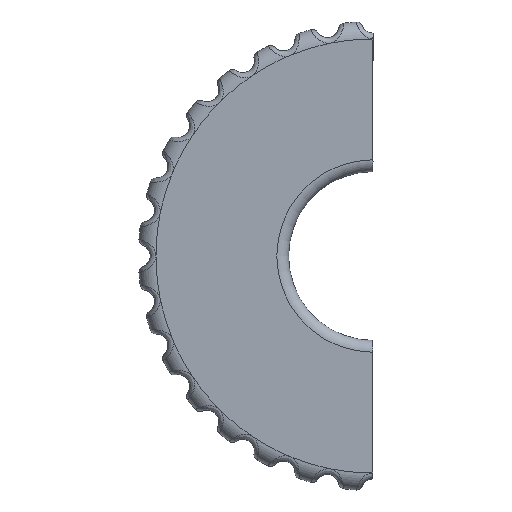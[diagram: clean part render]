
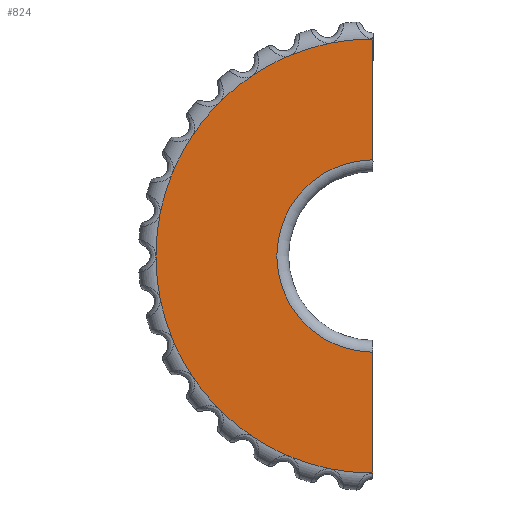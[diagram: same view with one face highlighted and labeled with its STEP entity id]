
A CAD part, front view. The second image highlights one B-rep face of the part: STEP entity #824.
In plain terms, the highlighted planar face has unit normal (0, -1, 0).
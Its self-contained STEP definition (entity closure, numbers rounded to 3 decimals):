
#259=PLANE('',#4385);
#430=LINE('',#5992,#585);
#473=LINE('',#7260,#628);
#585=VECTOR('',#4716,1.);
#628=VECTOR('',#4955,1.);
#824=ADVANCED_FACE('',(#1139),#259,.F.);
#1139=FACE_OUTER_BOUND('',#1404,.T.);
#1404=EDGE_LOOP('',(#2148,#2149,#2150,#2151,#2152,#2153,#2154,#2155,#2156,
#2157,#2158,#2159,#2160,#2161,#2162,#2163,#2164,#2165,#2166));
#2148=ORIENTED_EDGE('',*,*,#3482,.F.);
#2149=ORIENTED_EDGE('',*,*,#3639,.T.);
#2150=ORIENTED_EDGE('',*,*,#3333,.F.);
#2151=ORIENTED_EDGE('',*,*,#3314,.T.);
#2152=ORIENTED_EDGE('',*,*,#3343,.T.);
#2153=ORIENTED_EDGE('',*,*,#3353,.T.);
#2154=ORIENTED_EDGE('',*,*,#3371,.T.);
#2155=ORIENTED_EDGE('',*,*,#3397,.T.);
#2156=ORIENTED_EDGE('',*,*,#3425,.T.);
#2157=ORIENTED_EDGE('',*,*,#3445,.T.);
#2158=ORIENTED_EDGE('',*,*,#3455,.T.);
#2159=ORIENTED_EDGE('',*,*,#3600,.T.);
#2160=ORIENTED_EDGE('',*,*,#3590,.T.);
#2161=ORIENTED_EDGE('',*,*,#3570,.T.);
#2162=ORIENTED_EDGE('',*,*,#3542,.T.);
#2163=ORIENTED_EDGE('',*,*,#3516,.T.);
#2164=ORIENTED_EDGE('',*,*,#3498,.T.);
#2165=ORIENTED_EDGE('',*,*,#3488,.T.);
#2166=ORIENTED_EDGE('',*,*,#3469,.T.);
#2962=VERTEX_POINT('',#5856);
#2963=VERTEX_POINT('',#5857);
#2978=VERTEX_POINT('',#5993);
#2986=VERTEX_POINT('',#6064);
#2992=VERTEX_POINT('',#6185);
#3006=VERTEX_POINT('',#6351);
#3024=VERTEX_POINT('',#6549);
#3046=VERTEX_POINT('',#6767);
#3060=VERTEX_POINT('',#6936);
#3066=VERTEX_POINT('',#7057);
#3075=VERTEX_POINT('',#7206);
#3076=VERTEX_POINT('',#7208);
#3087=VERTEX_POINT('',#7259);
#3092=VERTEX_POINT('',#7296);
#3098=VERTEX_POINT('',#7417);
#3112=VERTEX_POINT('',#7597);
#3130=VERTEX_POINT('',#7795);
#3152=VERTEX_POINT('',#8013);
#3166=VERTEX_POINT('',#8182);
#3314=EDGE_CURVE('',#2962,#2963,#3921,.T.);
#3333=EDGE_CURVE('',#2962,#2978,#430,.T.);
#3343=EDGE_CURVE('',#2963,#2986,#3934,.T.);
#3353=EDGE_CURVE('',#2986,#2992,#3938,.T.);
#3371=EDGE_CURVE('',#2992,#3006,#3942,.T.);
#3397=EDGE_CURVE('',#3006,#3024,#3954,.T.);
#3425=EDGE_CURVE('',#3024,#3046,#3964,.T.);
#3445=EDGE_CURVE('',#3046,#3060,#3970,.T.);
#3455=EDGE_CURVE('',#3060,#3066,#3974,.T.);
#3469=EDGE_CURVE('',#3076,#3075,#3979,.T.);
#3482=EDGE_CURVE('',#3087,#3075,#473,.T.);
#3488=EDGE_CURVE('',#3092,#3076,#3988,.T.);
#3498=EDGE_CURVE('',#3098,#3092,#3992,.T.);
#3516=EDGE_CURVE('',#3112,#3098,#3996,.T.);
#3542=EDGE_CURVE('',#3130,#3112,#4008,.T.);
#3570=EDGE_CURVE('',#3152,#3130,#4018,.T.);
#3590=EDGE_CURVE('',#3166,#3152,#4024,.T.);
#3600=EDGE_CURVE('',#3066,#3166,#4028,.T.);
#3639=EDGE_CURVE('',#3087,#2978,#4033,.T.);
#3921=CIRCLE('',#4176,18.5);
#3934=CIRCLE('',#4194,18.5);
#3938=CIRCLE('',#4201,18.5);
#3942=CIRCLE('',#4210,18.5);
#3954=CIRCLE('',#4232,18.5);
#3964=CIRCLE('',#4252,18.5);
#3970=CIRCLE('',#4264,18.5);
#3974=CIRCLE('',#4271,18.5);
#3979=CIRCLE('',#4280,18.5);
#3988=CIRCLE('',#4291,18.5);
#3992=CIRCLE('',#4298,18.5);
#3996=CIRCLE('',#4307,18.5);
#4008=CIRCLE('',#4329,18.5);
#4018=CIRCLE('',#4349,18.5);
#4024=CIRCLE('',#4361,18.5);
#4028=CIRCLE('',#4368,18.5);
#4033=CIRCLE('',#4384,8.2);
#4176=AXIS2_PLACEMENT_3D('',#5855,#4685,#4686);
#4194=AXIS2_PLACEMENT_3D('',#6063,#4731,#4732);
#4201=AXIS2_PLACEMENT_3D('',#6184,#4747,#4748);
#4210=AXIS2_PLACEMENT_3D('',#6350,#4769,#4770);
#4232=AXIS2_PLACEMENT_3D('',#6548,#4817,#4818);
#4252=AXIS2_PLACEMENT_3D('',#6766,#4865,#4866);
#4264=AXIS2_PLACEMENT_3D('',#6935,#4897,#4898);
#4271=AXIS2_PLACEMENT_3D('',#7056,#4913,#4914);
#4280=AXIS2_PLACEMENT_3D('',#7207,#4935,#4936);
#4291=AXIS2_PLACEMENT_3D('',#7295,#4965,#4966);
#4298=AXIS2_PLACEMENT_3D('',#7416,#4981,#4982);
#4307=AXIS2_PLACEMENT_3D('',#7596,#5003,#5004);
#4329=AXIS2_PLACEMENT_3D('',#7794,#5051,#5052);
#4349=AXIS2_PLACEMENT_3D('',#8012,#5099,#5100);
#4361=AXIS2_PLACEMENT_3D('',#8181,#5131,#5132);
#4368=AXIS2_PLACEMENT_3D('',#8302,#5147,#5148);
#4384=AXIS2_PLACEMENT_3D('',#9485,#5194,#5195);
#4385=AXIS2_PLACEMENT_3D('',#9486,#5196,#5197);
#4685=DIRECTION('',(0.,-1.,0.));
#4686=DIRECTION('',(0.,0.,1.));
#4716=DIRECTION('',(0.,0.,-1.));
#4731=DIRECTION('',(0.,-1.,0.));
#4732=DIRECTION('',(0.,0.,1.));
#4747=DIRECTION('',(0.,-1.,0.));
#4748=DIRECTION('',(0.,0.,1.));
#4769=DIRECTION('',(0.,-1.,0.));
#4770=DIRECTION('',(0.,0.,1.));
#4817=DIRECTION('',(0.,-1.,0.));
#4818=DIRECTION('',(0.,0.,1.));
#4865=DIRECTION('',(0.,-1.,0.));
#4866=DIRECTION('',(0.,0.,1.));
#4897=DIRECTION('',(0.,-1.,0.));
#4898=DIRECTION('',(0.,0.,1.));
#4913=DIRECTION('',(0.,-1.,0.));
#4914=DIRECTION('',(0.,0.,1.));
#4935=DIRECTION('',(0.,-1.,0.));
#4936=DIRECTION('',(0.,0.,1.));
#4955=DIRECTION('',(0.,0.,-1.));
#4965=DIRECTION('',(0.,-1.,0.));
#4966=DIRECTION('',(0.,0.,1.));
#4981=DIRECTION('',(0.,-1.,0.));
#4982=DIRECTION('',(0.,0.,1.));
#5003=DIRECTION('',(0.,-1.,0.));
#5004=DIRECTION('',(0.,0.,1.));
#5051=DIRECTION('',(0.,-1.,0.));
#5052=DIRECTION('',(0.,0.,1.));
#5099=DIRECTION('',(0.,-1.,0.));
#5100=DIRECTION('',(0.,0.,1.));
#5131=DIRECTION('',(0.,-1.,0.));
#5132=DIRECTION('',(0.,0.,1.));
#5147=DIRECTION('',(0.,-1.,0.));
#5148=DIRECTION('',(0.,0.,1.));
#5194=DIRECTION('',(0.,1.,0.));
#5195=DIRECTION('',(0.,0.,1.));
#5196=DIRECTION('',(0.,1.,0.));
#5197=DIRECTION('',(0.,0.,1.));
#5855=CARTESIAN_POINT('',(0.,-10.,0.));
#5856=CARTESIAN_POINT('',(0.,-10.,18.5));
#5857=CARTESIAN_POINT('',(-3.609,-10.,18.145));
#5992=CARTESIAN_POINT('',(0.,-10.,20.));
#5993=CARTESIAN_POINT('',(0.,-10.,8.2));
#6063=CARTESIAN_POINT('',(0.,-10.,0.));
#6064=CARTESIAN_POINT('',(-7.08,-10.,17.092));
#6184=CARTESIAN_POINT('',(0.,-10.,0.));
#6185=CARTESIAN_POINT('',(-10.278,-10.,15.382));
#6350=CARTESIAN_POINT('',(0.,-10.,0.));
#6351=CARTESIAN_POINT('',(-13.081,-10.,13.081));
#6548=CARTESIAN_POINT('',(0.,-10.,0.));
#6549=CARTESIAN_POINT('',(-15.382,-10.,10.278));
#6766=CARTESIAN_POINT('',(0.,-10.,0.));
#6767=CARTESIAN_POINT('',(-17.092,-10.,7.08));
#6935=CARTESIAN_POINT('',(0.,-10.,0.));
#6936=CARTESIAN_POINT('',(-18.145,-10.,3.609));
#7056=CARTESIAN_POINT('',(0.,-10.,0.));
#7057=CARTESIAN_POINT('',(-18.5,-10.,0.));
#7206=CARTESIAN_POINT('',(0.,-10.,-18.5));
#7207=CARTESIAN_POINT('',(0.,-10.,0.));
#7208=CARTESIAN_POINT('',(-3.609,-10.,-18.145));
#7259=CARTESIAN_POINT('',(0.,-10.,-8.2));
#7260=CARTESIAN_POINT('',(0.,-10.,-8.7));
#7295=CARTESIAN_POINT('',(0.,-10.,0.));
#7296=CARTESIAN_POINT('',(-7.08,-10.,-17.092));
#7416=CARTESIAN_POINT('',(0.,-10.,0.));
#7417=CARTESIAN_POINT('',(-10.278,-10.,-15.382));
#7596=CARTESIAN_POINT('',(0.,-10.,0.));
#7597=CARTESIAN_POINT('',(-13.081,-10.,-13.081));
#7794=CARTESIAN_POINT('',(0.,-10.,0.));
#7795=CARTESIAN_POINT('',(-15.382,-10.,-10.278));
#8012=CARTESIAN_POINT('',(0.,-10.,0.));
#8013=CARTESIAN_POINT('',(-17.092,-10.,-7.08));
#8181=CARTESIAN_POINT('',(0.,-10.,0.));
#8182=CARTESIAN_POINT('',(-18.145,-10.,-3.609));
#8302=CARTESIAN_POINT('',(0.,-10.,0.));
#9485=CARTESIAN_POINT('',(0.,-10.,0.));
#9486=CARTESIAN_POINT('',(0.,-10.,0.));
